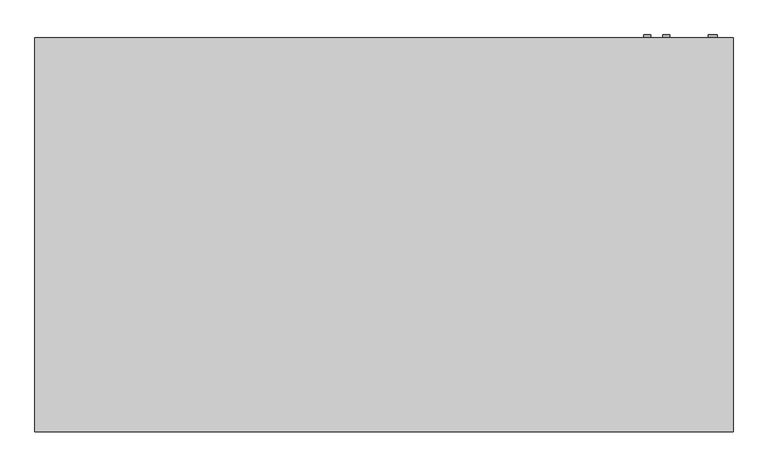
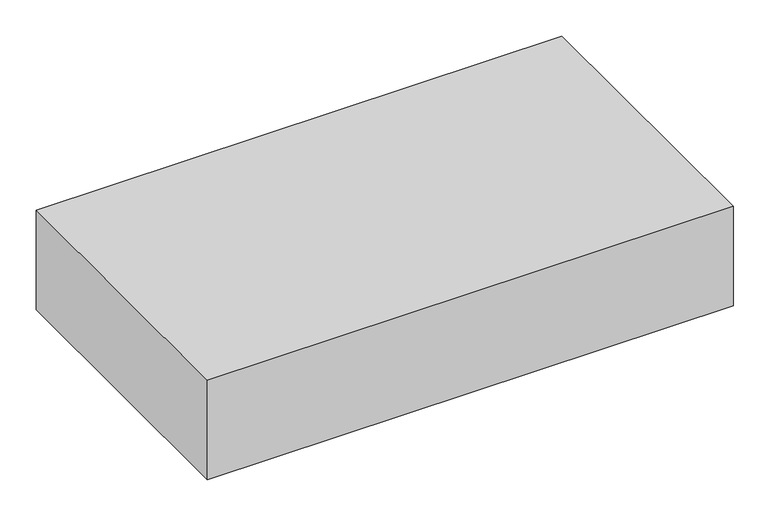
"""IFC4 building model written with IfcOpenShell, lengths in millimetres: proxy geometry, Exposed_Horizontal_Fan_Coil_Unit_-_42CGB_-_CARRIER_-_2-Pipe_Cool-EHeat_BS-BR_RH_2022 : Size 08 - 277v/60Hz/1Ph - 4 Row 6.0kW."""

from ifc_helpers import new_model, si_unit, point, frame, frame_2d, origin, place, context, project, spatial, polyline, circle_curve, trimmed, segment, composite_curve, outline, extrude, source, transform, mapped, element, save


def mechanical_equipment_96186353(model_context):
    return source(origin(), model_context, "Body", "SweptSolid", [
        extrude(outline(polyline([(647.7, -439.7375), (647.7, -611.1875), (-342.9, -611.1875), (-342.9, -439.7375), (647.7, -439.7375)])), frame((0.0, 0.0, -311.15), z_axis=(0.0, 0.0, 1.0), x_axis=(1.0, 0.0, 0.0)), (0.0, 0.0, 1.0), 6.35),
        extrude(outline(composite_curve([segment(trimmed(circle_curve(frame_2d((-60.325, 727.075)), 7.9375), [point((-60.325, 735.0125))], [point((-60.325, 719.1375))], False, "CARTESIAN"), True, "CONTINUOUS"), segment(trimmed(circle_curve(frame_2d((-60.325, 727.075)), 7.9375), [point((-60.325, 719.1375))], [point((-60.325, 735.0125))], False, "CARTESIAN"), True, "CONTINUOUS")], self_intersect=False)), frame((0.0, 192.0875, 0.0), z_axis=(0.0, 1.0, 0.0), x_axis=(0.0, 0.0, 1.0)), (0.0, 0.0, 1.0), 6.35),
        extrude(outline(composite_curve([segment(trimmed(circle_curve(frame_2d((-95.25, 768.35)), 7.9375), [point((-95.25, 776.2875))], [point((-95.25, 760.4125))], False, "CARTESIAN"), True, "CONTINUOUS"), segment(trimmed(circle_curve(frame_2d((-95.25, 768.35)), 7.9375), [point((-95.25, 760.4125))], [point((-95.25, 776.2875))], False, "CARTESIAN"), True, "CONTINUOUS")], self_intersect=False)), frame((0.0, 192.0875, 0.0), z_axis=(0.0, 1.0, 0.0), x_axis=(0.0, 0.0, 1.0)), (0.0, 0.0, 1.0), 6.35),
        extrude(outline(composite_curve([segment(trimmed(circle_curve(frame_2d((-260.35, 869.95)), 9.525), [point((-260.35, 879.475))], [point((-260.35, 860.425))], False, "CARTESIAN"), True, "CONTINUOUS"), segment(trimmed(circle_curve(frame_2d((-260.35, 869.95)), 9.525), [point((-260.35, 860.425))], [point((-260.35, 879.475))], False, "CARTESIAN"), True, "CONTINUOUS")], self_intersect=False)), frame((0.0, 192.0875, 0.0), z_axis=(0.0, 1.0, 0.0), x_axis=(0.0, 0.0, 1.0)), (0.0, 0.0, 1.0), 6.35),
        extrude(outline(polyline([(-609.6, 192.0875), (914.4, 192.0875), (914.4, -668.3375), (-609.6, -668.3375), (-609.6, 192.0875)])), frame((0.0, 0.0, -304.8), z_axis=(0.0, 0.0, 1.0), x_axis=(1.0, 0.0, 0.0)), (0.0, 0.0, 1.0), 304.8),
        extrude(outline(polyline([(673.1, 115.8875), (673.1, -138.1125), (-368.3, -138.1125), (-368.3, 115.8875), (673.1, 115.8875)])), frame((0.0, 0.0, -311.15), z_axis=(0.0, 0.0, 1.0), x_axis=(1.0, 0.0, 0.0)), (0.0, 0.0, 1.0), 6.35),
    ])


if __name__ == "__main__":
    model = new_model("IFC4")
    model_context = context("Model", 3, world=origin())
    ifc_project = project(units=[si_unit("LENGTHUNIT", "METRE", prefix="MILLI")], contexts=[model_context])
    site = spatial("IfcSite", under=ifc_project)
    building = spatial("IfcBuilding", under=site)
    placement = place(None, origin())
    mechanical_equipment_shape = mechanical_equipment_96186353(model_context)
    element("IfcBuildingElementProxy", 1, Name="Exposed_Horizontal_Fan_Coil_Unit_-_42CGB_-_CARRIER_-_2-Pipe_Cool-EHeat_BS-BR_RH_2022 : Size 08 - 277v/60Hz/1Ph - 4 Row 6.0kW", ObjectType="Exposed_Horizontal_Fan_Coil_Unit_-_42CGB_-_CARRIER_-_2-Pipe_Cool-EHeat_BS-BR_RH_2022 : Size 08 - 277v/60Hz/1Ph - 4 Row 6.0kW", at=placement, inside=building, context=model_context, shape_type="MappedRepresentation", body=[
        mapped(mechanical_equipment_shape, transform((0.0, 0.0, 0.0), x_axis=(1.0, 0.0, 0.0), y_axis=(0.0, 1.0, 0.0), z_axis=(0.0, 0.0, 1.0))),
    ])
    save(model, "model.ifc")
